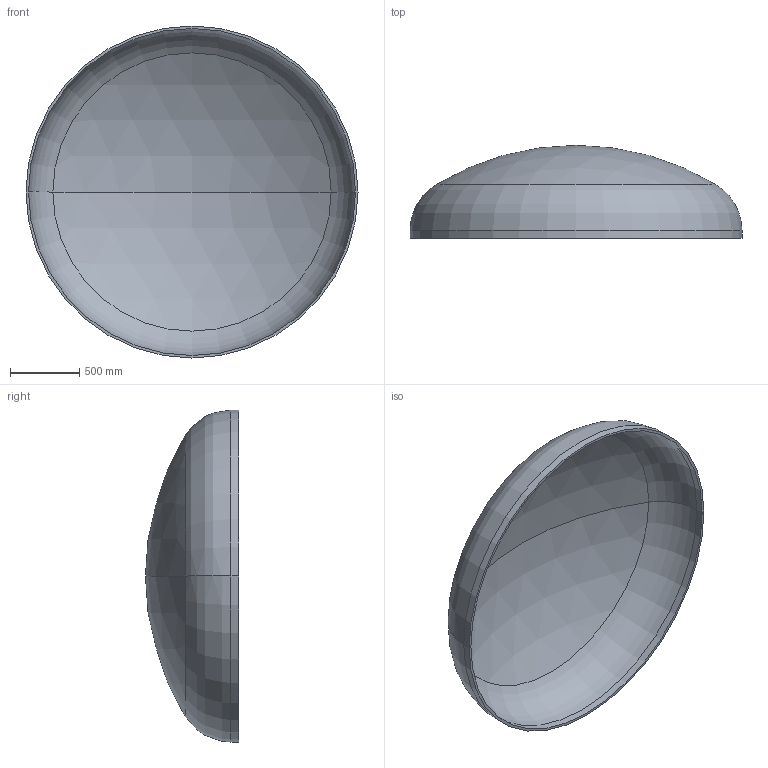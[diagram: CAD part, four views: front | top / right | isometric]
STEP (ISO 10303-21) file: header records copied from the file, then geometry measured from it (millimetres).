
FILE_DESCRIPTION (( 'STEP AP203' ), '1' );
FILE_NAME ('DIN 28013 Korbbogenform_-_Boden DIN 28013 - 2400 x 55 - I - s=18.step', '2016-07-01T15:08:35', ( '' ), ( '' ), 'SwSTEP 2.0', 'SolidWorks 2013', '' );
FILE_SCHEMA (( 'CONFIG_CONTROL_DESIGN' ));
Length unit declared in the file: millimetre
Products named in the file (1): DIN 28013 Korbbogenform_-_Boden DIN 28013 - 2400 x 55 - I - s=18
Bounding box: 2400 x 672.71 x 2400 mm (x, y, z)
Volume: 119099654.5 mm3; surface area: 13368667.4 mm2
Topology: 1 solids, 1 shells, 13 faces, 24 edges, 14 vertices
Faces by surface type: torus 4, cylinder 4, sphere 4, plane 1
Entity records: 407 total; most frequent: DIRECTION 72, CARTESIAN_POINT 52, ORIENTED_EDGE 48, AXIS2_PLACEMENT_3D 34, EDGE_CURVE 24, CIRCLE 20, EDGE_LOOP 14, VERTEX_POINT 14
